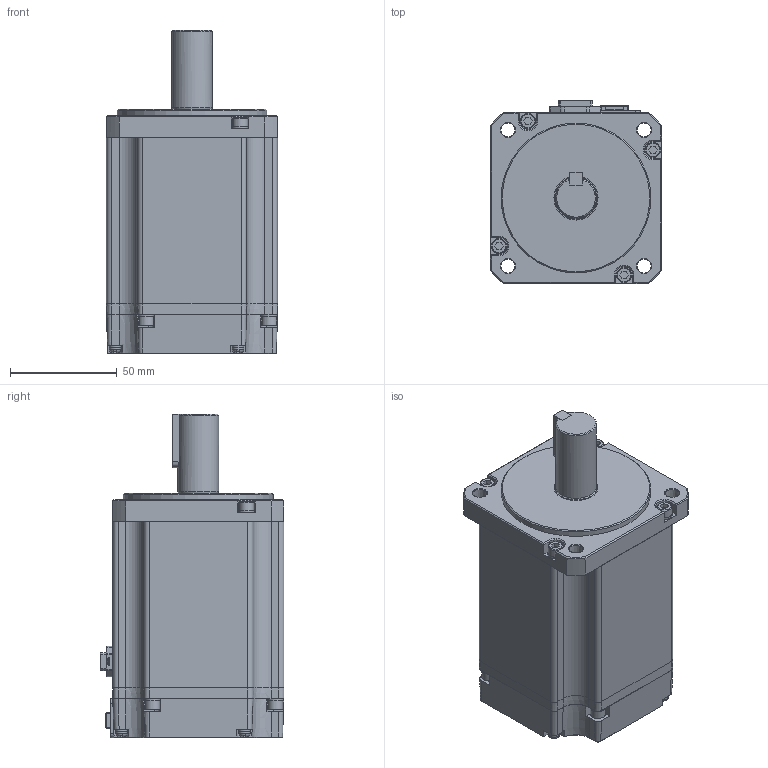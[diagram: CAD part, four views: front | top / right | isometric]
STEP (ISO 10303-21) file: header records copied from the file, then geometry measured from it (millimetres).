
FILE_DESCRIPTION (( 'STEP AP214' ), '1' );
FILE_NAME ('EM08GA001G04_Out Line(APM-EC10AM3K).STEP', '2022-11-04T03:10:14', ( '' ), ( '' ), 'SwSTEP 2.0', 'SolidWorks 2021', '' );
FILE_SCHEMA (( 'AUTOMOTIVE_DESIGN' ));
Length unit declared in the file: millimetre
Products named in the file (1): EM08GA001G04_Out Line(APM-EC10AM3K)
Bounding box: 80 x 85.9 x 151.2 mm (x, y, z)
Volume: 648614.6 mm3; surface area: 95560.4 mm2
Topology: 34 solids, 34 shells, 1438 faces, 3576 edges, 2272 vertices
Faces by surface type: plane 1035, cylinder 209, cone 128, torus 31, bspline 21, sphere 14
Full cylindrical faces by diameter (mm): 1.589 x1, 1.6 x9, 2 x2, 2.1 x2, 2.5 x4, 3 x8, 3.3 x8, 4 x12, 4.5 x8, 5.4 x8, 7 x8, 7.2 x8, 19 x1, 19.8 x1, 20.6 x1, 70 x1
Entity records: 58318 total; most frequent: CARTESIAN_POINT 8892, ORIENTED_EDGE 6772, DIRECTION 6549, EDGE_CURVE 3386, LINE 2515, VECTOR 2515, VERTEX_POINT 2229, AXIS2_PLACEMENT_3D 2017
